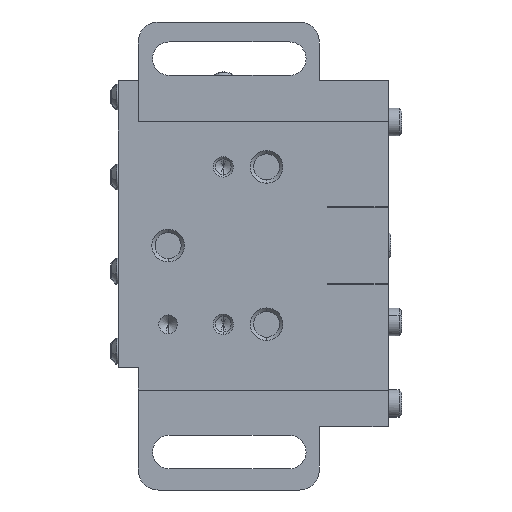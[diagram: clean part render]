
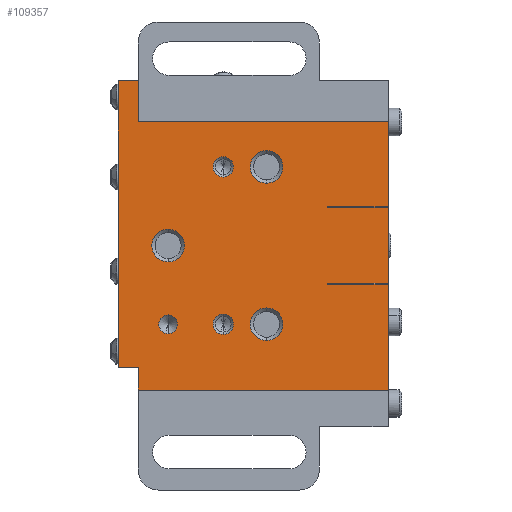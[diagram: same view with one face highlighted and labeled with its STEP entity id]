
A CAD part, front view. The second image highlights one B-rep face of the part: STEP entity #109357.
In plain terms, the highlighted planar face has unit normal (0, -1, 0).
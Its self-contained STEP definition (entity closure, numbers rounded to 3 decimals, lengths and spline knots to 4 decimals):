
#33081=CARTESIAN_POINT('',(-1.103,-0.29,-1.5122));
#33082=DIRECTION('',(0.,1.,0.));
#33083=DIRECTION('',(0.,0.,-1.));
#33084=AXIS2_PLACEMENT_3D('',#33081,#33082,#33083);
#33089=CARTESIAN_POINT('',(-1.103,-0.29,-1.5122));
#33090=DIRECTION('',(0.,1.,0.));
#33091=DIRECTION('',(0.,0.,1.));
#33092=AXIS2_PLACEMENT_3D('',#33089,#33090,#33091);
#33097=CARTESIAN_POINT('',(-0.8274,-0.29,-1.5122));
#33098=DIRECTION('',(0.,1.,0.));
#33099=DIRECTION('',(0.,0.,-1.));
#33100=AXIS2_PLACEMENT_3D('',#33097,#33098,#33099);
#33105=CARTESIAN_POINT('',(-0.8274,-0.29,-1.5122));
#33106=DIRECTION('',(0.,1.,0.));
#33107=DIRECTION('',(0.,0.,1.));
#33108=AXIS2_PLACEMENT_3D('',#33105,#33106,#33107);
#33113=CARTESIAN_POINT('',(-0.8274,-0.29,-0.7248));
#33114=DIRECTION('',(0.,1.,0.));
#33115=DIRECTION('',(0.,0.,-1.));
#33116=AXIS2_PLACEMENT_3D('',#33113,#33114,#33115);
#33121=CARTESIAN_POINT('',(-0.8274,-0.29,-0.7248));
#33122=DIRECTION('',(0.,1.,0.));
#33123=DIRECTION('',(0.,0.,1.));
#33124=AXIS2_PLACEMENT_3D('',#33121,#33122,#33123);
#33129=CARTESIAN_POINT('',(-1.103,-0.29,-1.1185));
#33130=DIRECTION('',(0.,1.,0.));
#33131=DIRECTION('',(0.,0.,-1.));
#33132=AXIS2_PLACEMENT_3D('',#33129,#33130,#33131);
#33137=CARTESIAN_POINT('',(-1.103,-0.29,-1.1185));
#33138=DIRECTION('',(0.,1.,0.));
#33139=DIRECTION('',(0.,0.,1.));
#33140=AXIS2_PLACEMENT_3D('',#33137,#33138,#33139);
#33145=CARTESIAN_POINT('',(-0.6109,-0.29,-1.5122));
#33146=DIRECTION('',(0.,1.,0.));
#33147=DIRECTION('',(0.,0.,-1.));
#33148=AXIS2_PLACEMENT_3D('',#33145,#33146,#33147);
#33153=CARTESIAN_POINT('',(-0.6109,-0.29,-1.5122));
#33154=DIRECTION('',(0.,1.,0.));
#33155=DIRECTION('',(0.,0.,1.));
#33156=AXIS2_PLACEMENT_3D('',#33153,#33154,#33155);
#33161=CARTESIAN_POINT('',(-0.6109,-0.29,-0.7248));
#33162=DIRECTION('',(0.,1.,0.));
#33163=DIRECTION('',(0.,0.,-1.));
#33164=AXIS2_PLACEMENT_3D('',#33161,#33162,#33163);
#33169=CARTESIAN_POINT('',(-0.6109,-0.29,-0.7248));
#33170=DIRECTION('',(0.,1.,0.));
#33171=DIRECTION('',(0.,0.,1.));
#33172=AXIS2_PLACEMENT_3D('',#33169,#33170,#33171);
#33177=DIRECTION('',(0.,0.,1.));
#33178=VECTOR('',#33177,0.005);
#33179=CARTESIAN_POINT('',(-0.307,-0.29,-0.9305));
#33180=LINE('',#33179,#33178);
#33184=DIRECTION('',(0.,0.,1.));
#33185=VECTOR('',#33184,0.005);
#33186=CARTESIAN_POINT('',(-0.307,-0.29,-1.3115));
#33187=LINE('',#33186,#33185);
#33191=DIRECTION('',(-1.,0.,0.));
#33192=VECTOR('',#33191,0.305);
#33193=CARTESIAN_POINT('',(-0.002,-0.29,-1.3115));
#33194=LINE('',#33193,#33192);
#33198=DIRECTION('',(0.,0.,1.));
#33199=VECTOR('',#33198,0.53);
#33200=CARTESIAN_POINT('',(-0.002,-0.29,-1.8415));
#33201=LINE('',#33200,#33199);
#33205=DIRECTION('',(1.,0.,0.));
#33206=VECTOR('',#33205,1.251);
#33207=CARTESIAN_POINT('',(-1.253,-0.29,-1.8415));
#33208=LINE('',#33207,#33206);
#33212=DIRECTION('',(0.,0.,-1.));
#33213=VECTOR('',#33212,0.1145);
#33214=CARTESIAN_POINT('',(-1.253,-0.29,-1.727));
#33215=LINE('',#33214,#33213);
#33219=DIRECTION('',(1.,0.,0.));
#33220=VECTOR('',#33219,0.1);
#33221=CARTESIAN_POINT('',(-1.353,-0.29,-1.727));
#33222=LINE('',#33221,#33220);
#33226=DIRECTION('',(-1.,0.,0.));
#33227=VECTOR('',#33226,0.1);
#33228=CARTESIAN_POINT('',(-1.253,-0.29,-0.295));
#33229=LINE('',#33228,#33227);
#33233=DIRECTION('',(0.,0.,1.));
#33234=VECTOR('',#33233,0.205);
#33235=CARTESIAN_POINT('',(-1.253,-0.29,-0.5));
#33236=LINE('',#33235,#33234);
#33240=DIRECTION('',(-1.,0.,0.));
#33241=VECTOR('',#33240,1.251);
#33242=CARTESIAN_POINT('',(-0.002,-0.29,-0.5));
#33243=LINE('',#33242,#33241);
#33247=DIRECTION('',(0.,0.,1.));
#33248=VECTOR('',#33247,0.4255);
#33249=CARTESIAN_POINT('',(-0.002,-0.29,-0.9255));
#33250=LINE('',#33249,#33248);
#33254=DIRECTION('',(1.,0.,0.));
#33255=VECTOR('',#33254,0.305);
#33256=CARTESIAN_POINT('',(-0.307,-0.29,-0.9255));
#33257=LINE('',#33256,#33255);
#33613=DIRECTION('',(1.,0.,0.));
#33614=VECTOR('',#33613,0.305);
#33615=CARTESIAN_POINT('',(-0.307,-0.29,-0.9305));
#33616=LINE('',#33615,#33614);
#33933=DIRECTION('',(-1.,0.,0.));
#33934=VECTOR('',#33933,0.305);
#33935=CARTESIAN_POINT('',(-0.002,-0.29,-1.3065));
#33936=LINE('',#33935,#33934);
#34835=DIRECTION('',(0.,0.,-1.));
#34836=VECTOR('',#34835,0.376);
#34837=CARTESIAN_POINT('',(-0.002,-0.29,-0.9305));
#34838=LINE('',#34837,#34836);
#37657=DIRECTION('',(0.,0.,1.));
#37658=VECTOR('',#37657,1.432);
#37659=CARTESIAN_POINT('',(-1.353,-0.29,-1.727));
#37660=LINE('',#37659,#37658);
#42969=CARTESIAN_POINT('',(-1.353,-0.29,-0.295));
#42971=VERTEX_POINT('',#42969);
#42973=CARTESIAN_POINT('',(-0.307,-0.29,-0.9255));
#42974=CARTESIAN_POINT('',(-0.002,-0.29,-0.9255));
#42975=VERTEX_POINT('',#42973);
#42976=VERTEX_POINT('',#42974);
#42983=CARTESIAN_POINT('',(-1.353,-0.29,-1.727));
#42984=VERTEX_POINT('',#42983);
#42985=CARTESIAN_POINT('',(-1.103,-0.29,-1.5591));
#42986=CARTESIAN_POINT('',(-1.103,-0.29,-1.4653));
#42987=VERTEX_POINT('',#42985);
#42988=VERTEX_POINT('',#42986);
#42989=CARTESIAN_POINT('',(-0.002,-0.29,-0.5));
#42990=VERTEX_POINT('',#42989);
#42995=CARTESIAN_POINT('',(-1.253,-0.29,-0.295));
#42996=VERTEX_POINT('',#42995);
#43003=CARTESIAN_POINT('',(-0.8274,-0.29,-1.5634));
#43004=CARTESIAN_POINT('',(-0.8274,-0.29,-1.461));
#43005=VERTEX_POINT('',#43003);
#43006=VERTEX_POINT('',#43004);
#43007=CARTESIAN_POINT('',(-1.253,-0.29,-0.5));
#43008=VERTEX_POINT('',#43007);
#43023=CARTESIAN_POINT('',(-1.253,-0.29,-1.727));
#43024=VERTEX_POINT('',#43023);
#43033=CARTESIAN_POINT('',(-0.8274,-0.29,-0.776));
#43034=CARTESIAN_POINT('',(-0.8274,-0.29,-0.6736));
#43035=VERTEX_POINT('',#43033);
#43036=VERTEX_POINT('',#43034);
#43051=CARTESIAN_POINT('',(-1.253,-0.29,-1.8415));
#43052=VERTEX_POINT('',#43051);
#43068=CARTESIAN_POINT('',(-1.103,-0.29,-1.2002));
#43069=CARTESIAN_POINT('',(-1.103,-0.29,-1.0368));
#43070=VERTEX_POINT('',#43068);
#43071=VERTEX_POINT('',#43069);
#43082=CARTESIAN_POINT('',(-0.002,-0.29,-1.3115));
#43083=CARTESIAN_POINT('',(-0.307,-0.29,-1.3115));
#43084=VERTEX_POINT('',#43082);
#43085=VERTEX_POINT('',#43083);
#43102=CARTESIAN_POINT('',(-0.002,-0.29,-1.8415));
#43103=VERTEX_POINT('',#43102);
#43125=CARTESIAN_POINT('',(-0.6109,-0.29,-1.5939));
#43126=CARTESIAN_POINT('',(-0.6109,-0.29,-1.4305));
#43127=VERTEX_POINT('',#43125);
#43128=VERTEX_POINT('',#43126);
#43183=CARTESIAN_POINT('',(-0.6109,-0.29,-0.8065));
#43184=CARTESIAN_POINT('',(-0.6109,-0.29,-0.6431));
#43185=VERTEX_POINT('',#43183);
#43186=VERTEX_POINT('',#43184);
#48646=CARTESIAN_POINT('',(-0.002,-0.29,-0.9305));
#48647=CARTESIAN_POINT('',(-0.002,-0.29,-1.3065));
#48648=VERTEX_POINT('',#48646);
#48649=VERTEX_POINT('',#48647);
#48957=CARTESIAN_POINT('',(-0.307,-0.29,-0.9305));
#48959=VERTEX_POINT('',#48957);
#48967=CARTESIAN_POINT('',(-0.307,-0.29,-1.3065));
#48968=VERTEX_POINT('',#48967);
#109287=CARTESIAN_POINT('',(0.,-0.29,0.));
#109288=DIRECTION('',(0.,1.,0.));
#109289=DIRECTION('',(0.,0.,1.));
#109290=AXIS2_PLACEMENT_3D('',#109287,#109288,#109289);
#109291=PLANE('',#109290);
#109293=ORIENTED_EDGE('',*,*,#109292,.F.);
#109295=ORIENTED_EDGE('',*,*,#109294,.T.);
#109297=ORIENTED_EDGE('',*,*,#109296,.T.);
#109299=ORIENTED_EDGE('',*,*,#109298,.T.);
#109301=ORIENTED_EDGE('',*,*,#109300,.F.);
#109303=ORIENTED_EDGE('',*,*,#109302,.F.);
#109304=ORIENTED_EDGE('',*,*,#49739,.F.);
#109305=ORIENTED_EDGE('',*,*,#49789,.F.);
#109306=ORIENTED_EDGE('',*,*,#49801,.F.);
#109307=ORIENTED_EDGE('',*,*,#49826,.F.);
#109309=ORIENTED_EDGE('',*,*,#109308,.T.);
#109310=ORIENTED_EDGE('',*,*,#109265,.F.);
#109312=ORIENTED_EDGE('',*,*,#109311,.F.);
#109314=ORIENTED_EDGE('',*,*,#109313,.F.);
#109316=ORIENTED_EDGE('',*,*,#109315,.F.);
#109318=ORIENTED_EDGE('',*,*,#109317,.F.);
#109319=EDGE_LOOP('',(#109293,#109295,#109297,#109299,#109301,#109303,#109304,
#109305,#109306,#109307,#109309,#109310,#109312,#109314,#109316,#109318));
#109320=FACE_OUTER_BOUND('',#109319,.F.);
#109322=ORIENTED_EDGE('',*,*,#109321,.F.);
#109324=ORIENTED_EDGE('',*,*,#109323,.F.);
#109325=EDGE_LOOP('',(#109322,#109324));
#109326=FACE_BOUND('',#109325,.F.);
#109328=ORIENTED_EDGE('',*,*,#109327,.F.);
#109330=ORIENTED_EDGE('',*,*,#109329,.F.);
#109331=EDGE_LOOP('',(#109328,#109330));
#109332=FACE_BOUND('',#109331,.F.);
#109334=ORIENTED_EDGE('',*,*,#109333,.F.);
#109336=ORIENTED_EDGE('',*,*,#109335,.F.);
#109337=EDGE_LOOP('',(#109334,#109336));
#109338=FACE_BOUND('',#109337,.F.);
#109340=ORIENTED_EDGE('',*,*,#109339,.F.);
#109342=ORIENTED_EDGE('',*,*,#109341,.F.);
#109343=EDGE_LOOP('',(#109340,#109342));
#109344=FACE_BOUND('',#109343,.F.);
#109346=ORIENTED_EDGE('',*,*,#109345,.F.);
#109348=ORIENTED_EDGE('',*,*,#109347,.F.);
#109349=EDGE_LOOP('',(#109346,#109348));
#109350=FACE_BOUND('',#109349,.F.);
#109352=ORIENTED_EDGE('',*,*,#109351,.F.);
#109354=ORIENTED_EDGE('',*,*,#109353,.F.);
#109355=EDGE_LOOP('',(#109352,#109354));
#109356=FACE_BOUND('',#109355,.F.);
#33085=CIRCLE('',#33084,0.0469);
#33093=CIRCLE('',#33092,0.0469);
#33101=CIRCLE('',#33100,0.0512);
#33109=CIRCLE('',#33108,0.0512);
#33117=CIRCLE('',#33116,0.0512);
#33125=CIRCLE('',#33124,0.0512);
#33133=CIRCLE('',#33132,0.0817);
#33141=CIRCLE('',#33140,0.0817);
#33149=CIRCLE('',#33148,0.0817);
#33157=CIRCLE('',#33156,0.0817);
#33165=CIRCLE('',#33164,0.0817);
#33173=CIRCLE('',#33172,0.0817);
#49739=EDGE_CURVE('',#43103,#43084,#33201,.T.);
#49789=EDGE_CURVE('',#43052,#43103,#33208,.T.);
#49801=EDGE_CURVE('',#43024,#43052,#33215,.T.);
#49826=EDGE_CURVE('',#42984,#43024,#33222,.T.);
#109265=EDGE_CURVE('',#42996,#42971,#33229,.T.);
#109292=EDGE_CURVE('',#48959,#42975,#33180,.T.);
#109294=EDGE_CURVE('',#48959,#48648,#33616,.T.);
#109296=EDGE_CURVE('',#48648,#48649,#34838,.T.);
#109298=EDGE_CURVE('',#48649,#48968,#33936,.T.);
#109300=EDGE_CURVE('',#43085,#48968,#33187,.T.);
#109302=EDGE_CURVE('',#43084,#43085,#33194,.T.);
#109308=EDGE_CURVE('',#42984,#42971,#37660,.T.);
#109311=EDGE_CURVE('',#43008,#42996,#33236,.T.);
#109313=EDGE_CURVE('',#42990,#43008,#33243,.T.);
#109315=EDGE_CURVE('',#42976,#42990,#33250,.T.);
#109317=EDGE_CURVE('',#42975,#42976,#33257,.T.);
#109321=EDGE_CURVE('',#43005,#43006,#33101,.T.);
#109323=EDGE_CURVE('',#43006,#43005,#33109,.T.);
#109327=EDGE_CURVE('',#43035,#43036,#33117,.T.);
#109329=EDGE_CURVE('',#43036,#43035,#33125,.T.);
#109333=EDGE_CURVE('',#43070,#43071,#33133,.T.);
#109335=EDGE_CURVE('',#43071,#43070,#33141,.T.);
#109339=EDGE_CURVE('',#43127,#43128,#33149,.T.);
#109341=EDGE_CURVE('',#43128,#43127,#33157,.T.);
#109345=EDGE_CURVE('',#43185,#43186,#33165,.T.);
#109347=EDGE_CURVE('',#43186,#43185,#33173,.T.);
#109351=EDGE_CURVE('',#42987,#42988,#33085,.T.);
#109353=EDGE_CURVE('',#42988,#42987,#33093,.T.);
#109357=ADVANCED_FACE('',(#109320,#109326,#109332,#109338,#109344,#109350,
#109356),#109291,.F.);
